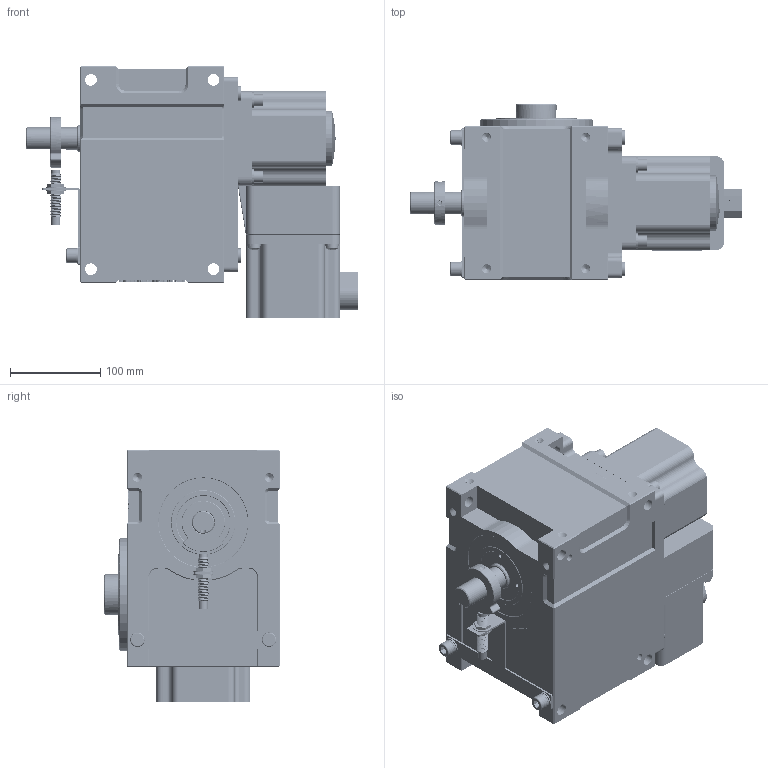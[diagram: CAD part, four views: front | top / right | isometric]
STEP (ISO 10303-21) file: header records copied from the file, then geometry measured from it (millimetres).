
FILE_DESCRIPTION (( 'STEP AP214' ), '1' );
FILE_NAME ('ER-RU80DF英锐凸轮分割器壳体法兰面销孔3D水平直联式右侧ZDWS(电话15062628977)AA.STEP', '2022-11-17T04:35:34', ( '微软用户' ), ( '微软中国' ), 'SwSTEP 2.0', 'SolidWorks 2017', '' );
FILE_SCHEMA (( 'AUTOMOTIVE_DESIGN' ));
Length unit declared in the file: millimetre
Products named in the file (1): ER-RU80DF英锐凸轮分割器壳体法兰面销孔3D水平直联式右侧ZDWS(电话15062628977)AA
Bounding box: 368.25 x 195 x 278.75 mm (x, y, z)
Volume: 9045960.5 mm3; surface area: 492576.2 mm2
Topology: 10 solids, 15 shells, 2231 faces, 5800 edges, 3747 vertices
Faces by surface type: cylinder 938, plane 661, bspline 393, cone 223, torus 15, sphere 1
Entity records: 204990 total; most frequent: CARTESIAN_POINT 155344, ORIENTED_EDGE 11512, DIRECTION 7224, EDGE_CURVE 5756, VERTEX_POINT 3747, VECTOR 2534, LINE 2534, EDGE_LOOP 2457
